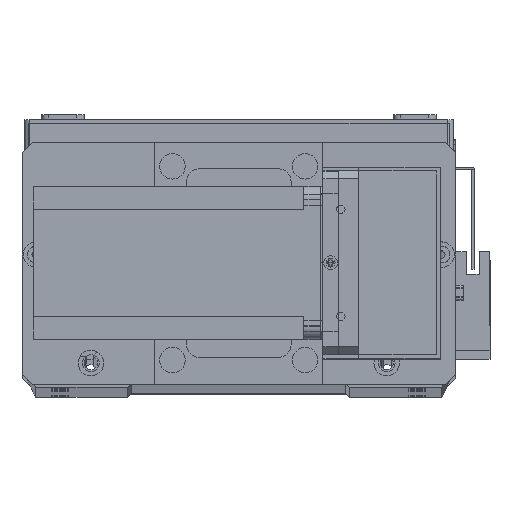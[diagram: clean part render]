
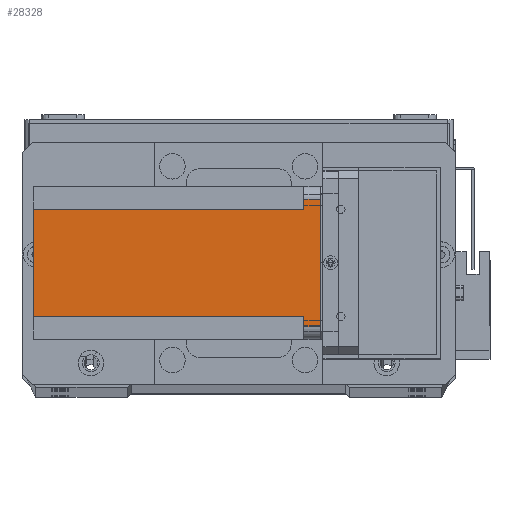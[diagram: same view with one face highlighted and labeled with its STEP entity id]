
A CAD part, top view. The second image highlights one B-rep face of the part: STEP entity #28328.
In plain terms, the highlighted planar face has unit normal (0, 0, 1) as drawn and (-1, 0, 0) by its records, which use the part's own axes.
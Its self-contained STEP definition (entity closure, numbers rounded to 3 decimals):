
#1412 = VERTEX_POINT ( 'NONE', #28180 ) ;
#2128 = CARTESIAN_POINT ( 'NONE',  ( 0., 0., -112.5 ) ) ;
#2759 = VECTOR ( 'NONE', #21359, 1000. ) ;
#3194 = EDGE_CURVE ( 'NONE', #12062, #23186, #18868, .T. ) ;
#4375 = AXIS2_PLACEMENT_3D ( 'NONE', #2128, #25272, #10269 ) ;
#4846 = LINE ( 'NONE', #22464, #18657 ) ;
#5084 = FACE_OUTER_BOUND ( 'NONE', #31099, .T. ) ;
#6162 = CARTESIAN_POINT ( 'NONE',  ( 0., 9., -112.5 ) ) ;
#6871 = DIRECTION ( 'NONE',  ( 0., 0., -1. ) ) ;
#7113 = LINE ( 'NONE', #26982, #33003 ) ;
#7381 = EDGE_CURVE ( 'NONE', #21979, #1412, #4846, .T. ) ;
#7567 = PLANE ( 'NONE',  #4375 ) ;
#7725 = CARTESIAN_POINT ( 'NONE',  ( 0., 55., -6.5 ) ) ;
#8000 = EDGE_CURVE ( 'NONE', #21300, #10714, #8704, .T. ) ;
#8582 = CARTESIAN_POINT ( 'NONE',  ( 0., 5., 0. ) ) ;
#8704 = LINE ( 'NONE', #15357, #20601 ) ;
#10269 = DIRECTION ( 'NONE',  ( 0., -1., 0. ) ) ;
#10714 = VERTEX_POINT ( 'NONE', #8582 ) ;
#12062 = VERTEX_POINT ( 'NONE', #28103 ) ;
#13027 = VECTOR ( 'NONE', #30125, 1000. ) ;
#13172 = DIRECTION ( 'NONE',  ( 0., 0., 1. ) ) ;
#13821 = VERTEX_POINT ( 'NONE', #20919 ) ;
#15029 = EDGE_CURVE ( 'NONE', #13821, #29684, #21522, .T. ) ;
#15357 = CARTESIAN_POINT ( 'NONE',  ( 0., 0., 0. ) ) ;
#16910 = EDGE_CURVE ( 'NONE', #21979, #10714, #24131, .T. ) ;
#17242 = CARTESIAN_POINT ( 'NONE',  ( 0., 60., -6.5 ) ) ;
#17273 = DIRECTION ( 'NONE',  ( 0., 1., 0. ) ) ;
#17828 = DIRECTION ( 'NONE',  ( 0., -1., 0. ) ) ;
#18084 = LINE ( 'NONE', #25607, #23971 ) ;
#18528 = EDGE_CURVE ( 'NONE', #21300, #29684, #32395, .T. ) ;
#18657 = VECTOR ( 'NONE', #22497, 1000. ) ;
#18868 = LINE ( 'NONE', #30791, #13027 ) ;
#19056 = EDGE_CURVE ( 'NONE', #12062, #13821, #18084, .T. ) ;
#19288 = VECTOR ( 'NONE', #23486, 1000. ) ;
#19701 = CARTESIAN_POINT ( 'NONE',  ( 0., 5., -6.5 ) ) ;
#20174 = ORIENTED_EDGE ( 'NONE', *, *, #7381, .F. ) ;
#20311 = ORIENTED_EDGE ( 'NONE', *, *, #16910, .T. ) ;
#20601 = VECTOR ( 'NONE', #17828, 1000. ) ;
#20730 = VECTOR ( 'NONE', #17273, 1000. ) ;
#20919 = CARTESIAN_POINT ( 'NONE',  ( 0., 51., -6.5 ) ) ;
#20947 = CARTESIAN_POINT ( 'NONE',  ( 0., 55., -112.5 ) ) ;
#21041 = ORIENTED_EDGE ( 'NONE', *, *, #8000, .F. ) ;
#21300 = VERTEX_POINT ( 'NONE', #26055 ) ;
#21359 = DIRECTION ( 'NONE',  ( 0., 0., 1. ) ) ;
#21514 = CARTESIAN_POINT ( 'NONE',  ( 0., 5., -112.5 ) ) ;
#21522 = LINE ( 'NONE', #17242, #20730 ) ;
#21770 = ORIENTED_EDGE ( 'NONE', *, *, #18528, .T. ) ;
#21979 = VERTEX_POINT ( 'NONE', #19701 ) ;
#22298 = ORIENTED_EDGE ( 'NONE', *, *, #15029, .F. ) ;
#22464 = CARTESIAN_POINT ( 'NONE',  ( 0., 0., -6.5 ) ) ;
#22497 = DIRECTION ( 'NONE',  ( 0., 1., 0. ) ) ;
#22570 = ORIENTED_EDGE ( 'NONE', *, *, #19056, .F. ) ;
#23186 = VERTEX_POINT ( 'NONE', #6162 ) ;
#23486 = DIRECTION ( 'NONE',  ( 0., 0., -1. ) ) ;
#23742 = ORIENTED_EDGE ( 'NONE', *, *, #3194, .T. ) ;
#23971 = VECTOR ( 'NONE', #13172, 1000. ) ;
#24131 = LINE ( 'NONE', #21514, #2759 ) ;
#24208 = EDGE_CURVE ( 'NONE', #1412, #23186, #7113, .T. ) ;
#24872 = ORIENTED_EDGE ( 'NONE', *, *, #24208, .F. ) ;
#25272 = DIRECTION ( 'NONE',  ( -1., 0., 0. ) ) ;
#25607 = CARTESIAN_POINT ( 'NONE',  ( 0., 51., -112.5 ) ) ;
#26055 = CARTESIAN_POINT ( 'NONE',  ( 0., 55., 0. ) ) ;
#26982 = CARTESIAN_POINT ( 'NONE',  ( 0., 9., -112.5 ) ) ;
#28103 = CARTESIAN_POINT ( 'NONE',  ( 0., 51., -112.5 ) ) ;
#28180 = CARTESIAN_POINT ( 'NONE',  ( 0., 9., -6.5 ) ) ;
#28328 = ADVANCED_FACE ( 'NONE', ( #5084 ), #7567, .T. ) ;
#29684 = VERTEX_POINT ( 'NONE', #7725 ) ;
#30125 = DIRECTION ( 'NONE',  ( 0., -1., 0. ) ) ;
#30791 = CARTESIAN_POINT ( 'NONE',  ( 0., 0., -112.5 ) ) ;
#31099 = EDGE_LOOP ( 'NONE', ( #20174, #20311, #21041, #21770, #22298, #22570, #23742, #24872 ) ) ;
#32395 = LINE ( 'NONE', #20947, #19288 ) ;
#33003 = VECTOR ( 'NONE', #6871, 1000. ) ;
